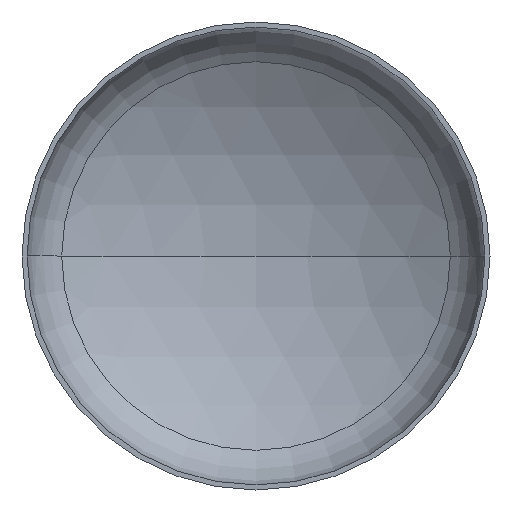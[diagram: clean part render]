
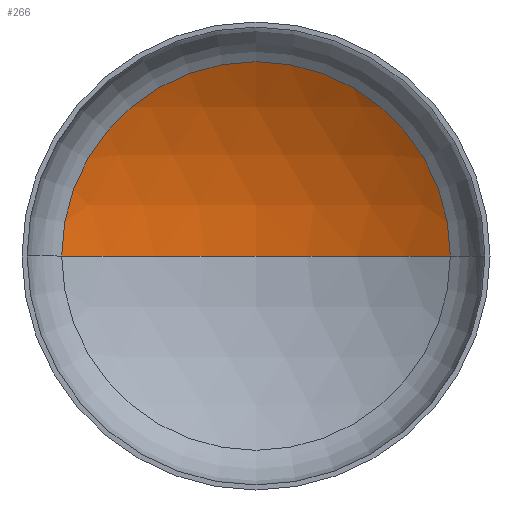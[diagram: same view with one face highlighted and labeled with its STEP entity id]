
A CAD part, front view. The second image highlights one B-rep face of the part: STEP entity #266.
In plain terms, the highlighted spherical face has radius 3040 mm.
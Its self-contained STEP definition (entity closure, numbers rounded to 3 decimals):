
#10 = DIRECTION ( 'NONE',  ( -1., 0., 0. ) ) ;
#15 = EDGE_LOOP ( 'NONE', ( #67, #68, #99 ) ) ;
#19 = DIRECTION ( 'NONE',  ( 0., 0., -1. ) ) ;
#32 = AXIS2_PLACEMENT_3D ( 'NONE', #177, #172, #38 ) ;
#38 = DIRECTION ( 'NONE',  ( -1., 0., 0. ) ) ;
#45 = AXIS2_PLACEMENT_3D ( 'NONE', #379, #248, #189 ) ;
#49 = AXIS2_PLACEMENT_3D ( 'NONE', #356, #19, #10 ) ;
#50 = AXIS2_PLACEMENT_3D ( 'NONE', #218, #194, #196 ) ;
#55 = VERTEX_POINT ( 'NONE', #280 ) ;
#56 = VERTEX_POINT ( 'NONE', #242 ) ;
#67 = ORIENTED_EDGE ( 'NONE', *, *, #138, .F. ) ;
#68 = ORIENTED_EDGE ( 'NONE', *, *, #111, .T. ) ;
#88 = VERTEX_POINT ( 'NONE', #372 ) ;
#96 = EDGE_CURVE ( 'NONE', #88, #55, #381, .T. ) ;
#99 = ORIENTED_EDGE ( 'NONE', *, *, #96, .T. ) ;
#111 = EDGE_CURVE ( 'NONE', #56, #88, #314, .T. ) ;
#138 = EDGE_CURVE ( 'NONE', #56, #55, #198, .T. ) ;
#172 = DIRECTION ( 'NONE',  ( 0., 0., -1. ) ) ;
#177 = CARTESIAN_POINT ( 'NONE',  ( 0., -1968.559, 0. ) ) ;
#189 = DIRECTION ( 'NONE',  ( 1., 0., 0. ) ) ;
#194 = DIRECTION ( 'NONE',  ( 0., -1., 0. ) ) ;
#196 = DIRECTION ( 'NONE',  ( 1., 0., 0. ) ) ;
#198 = CIRCLE ( 'NONE', #45, 3040. ) ;
#218 = CARTESIAN_POINT ( 'NONE',  ( 0., 630.064, 0. ) ) ;
#242 = CARTESIAN_POINT ( 'NONE',  ( 0., 1071.441, 0. ) ) ;
#248 = DIRECTION ( 'NONE',  ( 0., 0., 1. ) ) ;
#266 = ADVANCED_FACE ( 'NONE', ( #354 ), #302, .F. ) ;
#280 = CARTESIAN_POINT ( 'NONE',  ( -1577.58, 630.064, 0. ) ) ;
#302 = SPHERICAL_SURFACE ( 'NONE', #32, 3040. ) ;
#314 = CIRCLE ( 'NONE', #49, 3040. ) ;
#354 = FACE_OUTER_BOUND ( 'NONE', #15, .T. ) ;
#356 = CARTESIAN_POINT ( 'NONE',  ( 0., -1968.559, 0. ) ) ;
#372 = CARTESIAN_POINT ( 'NONE',  ( 1577.58, 630.064, 0. ) ) ;
#379 = CARTESIAN_POINT ( 'NONE',  ( 0., -1968.559, 0. ) ) ;
#381 = CIRCLE ( 'NONE', #50, 1577.58 ) ;
